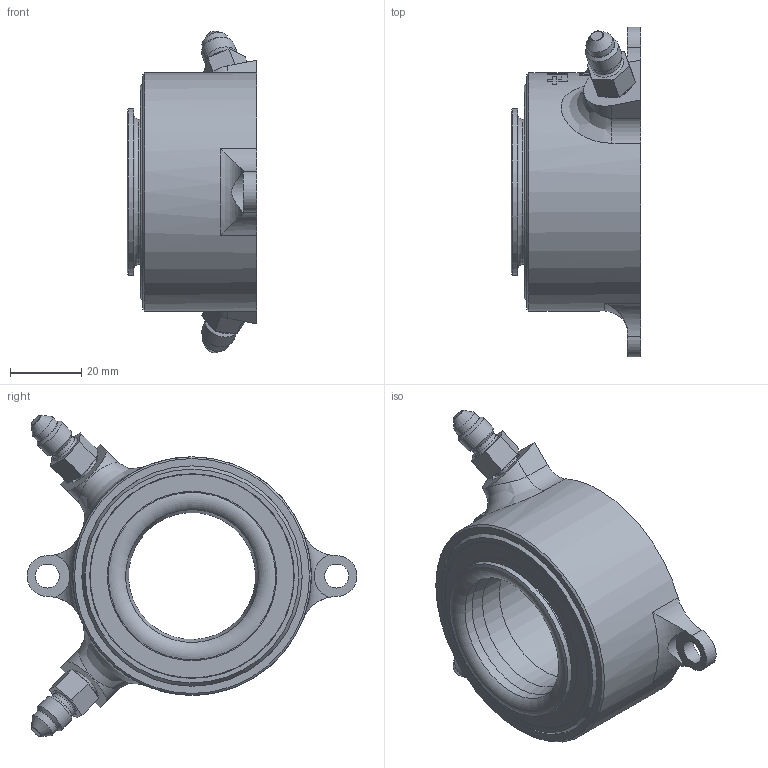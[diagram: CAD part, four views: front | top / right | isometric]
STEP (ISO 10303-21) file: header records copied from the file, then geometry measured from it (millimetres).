
FILE_DESCRIPTION( ( 'Unknown' ), '1' );
FILE_NAME( 'M:/ENG2/CAD/DRAWINGS/Solid Models For Customers (Simplified)/HYDRAULIC RELEASE BEARINGS/61-8122/61-8122.stp', 'Unknown', ( 'Unknown' ), ( 'Unknown' ), 'PSStep 17.0.49', 'Unknown', ' ' );
FILE_SCHEMA( ( 'AUTOMOTIVE_DESIGN { 1 0 10303 214 1 1 1 1 }' ) );
Length unit declared in the file: inch
Products named in the file (1): 4898
Bounding box: 36.45 x 92.71 x 90.37 mm (x, y, z)
Volume: 88203.7 mm3; surface area: 23735.1 mm2
Topology: 1 solids, 3 shells, 131 faces, 360 edges, 262 vertices
Faces by surface type: cylinder 54, plane 37, torus 19, cone 19, bspline 2
Full cylindrical faces by diameter (mm): 6.756 x2, 7.734 x2, 7.925 x4, 8.379 x2, 9.525 x2, 35.687 x1, 37.338 x1, 38.1 x1, 40.894 x1, 46.99 x1, 47.561 x2, 57.213 x1, 58.039 x1, 61.925 x1, 64.922 x1, 67.056 x1
Entity records: 7195 total; most frequent: CARTESIAN_POINT 3187, ORIENTED_EDGE 564, DIRECTION 542, EDGE_CURVE 282, VERTEX_POINT 244, AXIS2_PLACEMENT_3D 236, EDGE_LOOP 228, FACE_OUTER_BOUND 172
